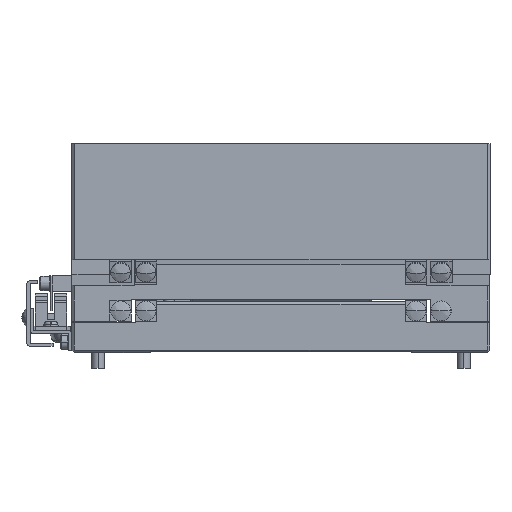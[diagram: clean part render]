
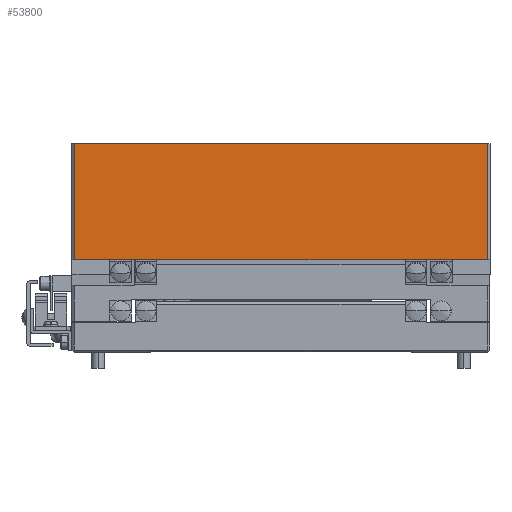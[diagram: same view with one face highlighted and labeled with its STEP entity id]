
A CAD part, left-side view. The second image highlights one B-rep face of the part: STEP entity #53800.
In plain terms, the highlighted planar face has unit normal (-1, 0, 0) as drawn and (1, 0, 0) by its records, which use the part's own axes.
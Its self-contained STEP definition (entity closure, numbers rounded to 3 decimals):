
#385 = EDGE_CURVE ( 'NONE', #65809, #26070, #34566, .T. ) ;
#457 = DIRECTION ( 'NONE',  ( 1., 0., 0. ) ) ;
#2067 = ORIENTED_EDGE ( 'NONE', *, *, #31218, .T. ) ;
#2942 = LINE ( 'NONE', #29304, #32378 ) ;
#3012 = VERTEX_POINT ( 'NONE', #21037 ) ;
#4429 = CARTESIAN_POINT ( 'NONE',  ( 283.894, -76.774, 221.647 ) ) ;
#6718 = CARTESIAN_POINT ( 'NONE',  ( 283.894, -235.774, 221.647 ) ) ;
#7444 = VERTEX_POINT ( 'NONE', #23705 ) ;
#7818 = VECTOR ( 'NONE', #52783, 1000. ) ;
#8399 = FACE_OUTER_BOUND ( 'NONE', #63299, .T. ) ;
#9397 = AXIS2_PLACEMENT_3D ( 'NONE', #52632, #457, #65134 ) ;
#13261 = LINE ( 'NONE', #62265, #17926 ) ;
#13320 = EDGE_CURVE ( 'NONE', #7444, #65809, #2942, .T. ) ;
#17178 = PLANE ( 'NONE',  #9397 ) ;
#17926 = VECTOR ( 'NONE', #68661, 1000. ) ;
#18779 = ORIENTED_EDGE ( 'NONE', *, *, #13320, .T. ) ;
#19941 = ORIENTED_EDGE ( 'NONE', *, *, #385, .T. ) ;
#21037 = CARTESIAN_POINT ( 'NONE',  ( 283.894, -234.774, 221.647 ) ) ;
#23705 = CARTESIAN_POINT ( 'NONE',  ( 283.894, -234.774, 177.147 ) ) ;
#26070 = VERTEX_POINT ( 'NONE', #4429 ) ;
#27954 = EDGE_CURVE ( 'NONE', #3012, #26070, #43656, .T. ) ;
#29304 = CARTESIAN_POINT ( 'NONE',  ( 283.894, -235.774, 177.147 ) ) ;
#31218 = EDGE_CURVE ( 'NONE', #3012, #7444, #13261, .T. ) ;
#32378 = VECTOR ( 'NONE', #58098, 1000. ) ;
#34566 = LINE ( 'NONE', #58923, #7818 ) ;
#43656 = LINE ( 'NONE', #6718, #63799 ) ;
#44890 = CARTESIAN_POINT ( 'NONE',  ( 283.894, -76.774, 177.147 ) ) ;
#52632 = CARTESIAN_POINT ( 'NONE',  ( 283.894, -235.774, 221.647 ) ) ;
#52783 = DIRECTION ( 'NONE',  ( 0., 0., 1. ) ) ;
#53800 = ADVANCED_FACE ( 'NONE', ( #8399 ), #17178, .T. ) ;
#55017 = DIRECTION ( 'NONE',  ( 0., 1., 0. ) ) ;
#58098 = DIRECTION ( 'NONE',  ( 0., 1., 0. ) ) ;
#58923 = CARTESIAN_POINT ( 'NONE',  ( 283.894, -76.774, 221.647 ) ) ;
#62265 = CARTESIAN_POINT ( 'NONE',  ( 283.894, -234.774, 177.147 ) ) ;
#63299 = EDGE_LOOP ( 'NONE', ( #18779, #19941, #64977, #2067 ) ) ;
#63799 = VECTOR ( 'NONE', #55017, 1000. ) ;
#64977 = ORIENTED_EDGE ( 'NONE', *, *, #27954, .F. ) ;
#65134 = DIRECTION ( 'NONE',  ( 0., 1., 0. ) ) ;
#65809 = VERTEX_POINT ( 'NONE', #44890 ) ;
#68661 = DIRECTION ( 'NONE',  ( 0., 0., -1. ) ) ;
